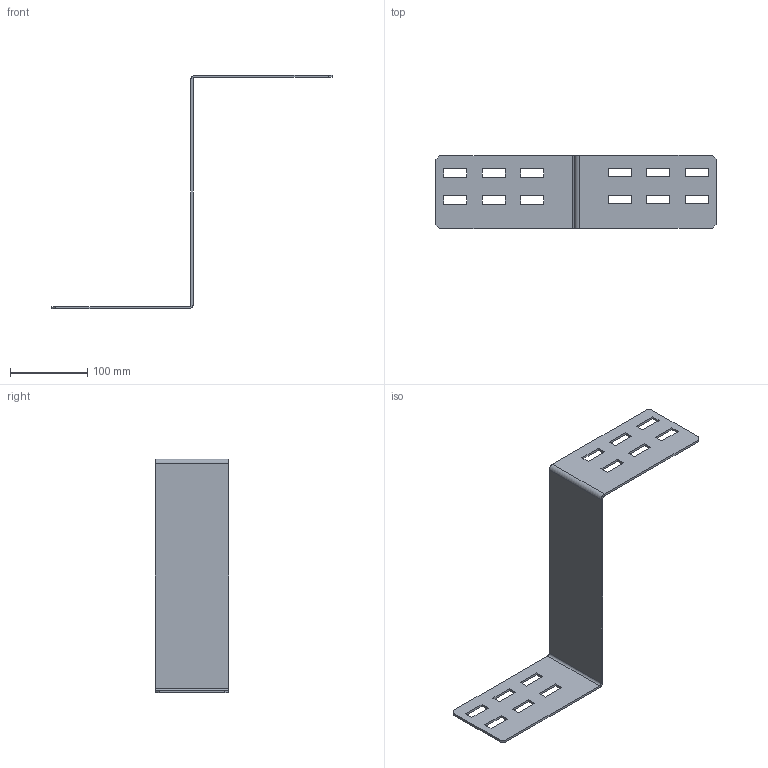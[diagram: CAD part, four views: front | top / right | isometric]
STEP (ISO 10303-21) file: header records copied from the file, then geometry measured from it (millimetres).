
FILE_DESCRIPTION(('Creo Elements/Direct Modeling STEP Export'),'2;1');
FILE_NAME('//pserver/office/EK/ME10-3D/3D-output/WPRL-L 100-30.stp','2020-03-12T10:43:29',(''),(''),'PTC Creo Elements/Direct Modeling STEP processor for AP214 (Solid Model)','PTC Creo Elements/Direct Modeling 19.0C 15-Aug-2015 (C) Parametric Technology GmbH','');
FILE_SCHEMA(('AUTOMOTIVE_DESIGN { 1 0 10303 214 1 1 1 1 }'));
Length unit declared in the file: millimetre
Products named in the file (2): WPRL-L100-30
Assembly tree (1 placements, depth 2):
  WPRL-L100-30
    WPRL-L100-30
Bounding box: 363 x 95 x 303 mm (x, y, z)
Volume: 175284.1 mm3; surface area: 124333.7 mm2
Topology: 1 solids, 1 shells, 66 faces, 192 edges, 128 vertices
Faces by surface type: plane 62, cylinder 4
Entity records: 2237 total; most frequent: CARTESIAN_POINT 388, ORIENTED_EDGE 384, DIRECTION 336, EDGE_CURVE 192, VECTOR 184, LINE 184, VERTEX_POINT 128, EDGE_LOOP 90
